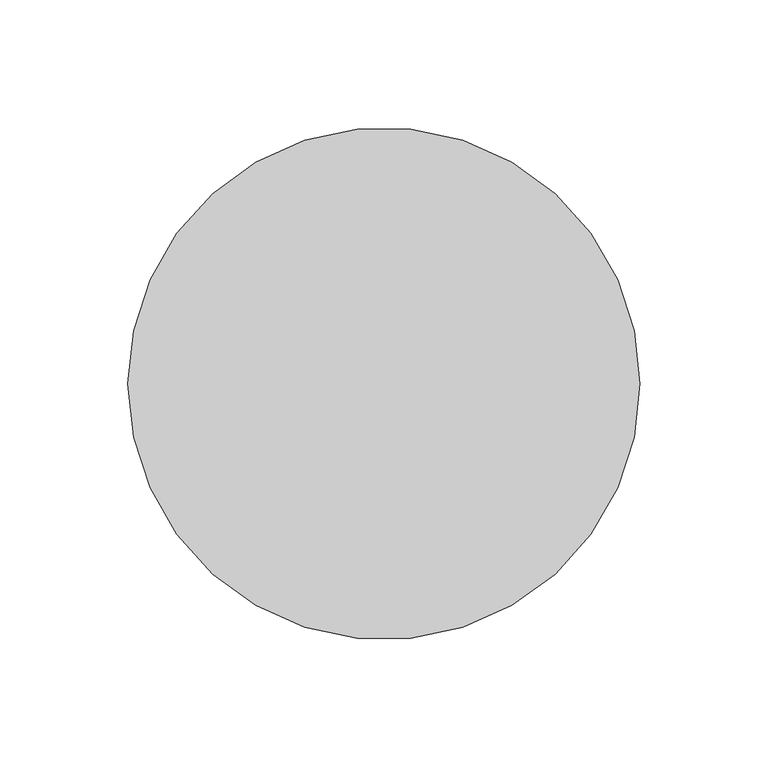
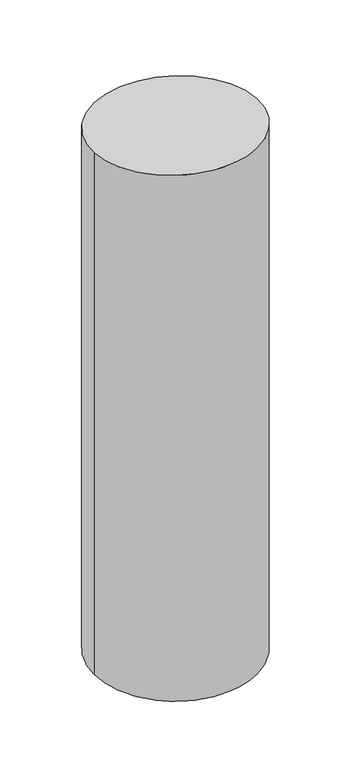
"""IFC4 building model written with IfcOpenShell, lengths in millimetres: member geometry, 矩形竖梃 : 圆瓦."""

from ifc_helpers import new_model, si_unit, frame, origin, origin_with_axes, place, context, project, spatial, circle_curve, ellipse_curve, source, transform, mapped, element, save
from ifc_brep_helpers import plane_surface, cylinder_surface, advanced_brep


def member_52043cd3(model_context):
    return source(origin(), model_context, "Body", "AdvancedBrep", [
        advanced_brep(
        [(100.0, 0.0, -676.6972491), (-100.0, 0.0, -676.6972491), (-100.0, 0.0, 0.0), (100.0, 0.0, 0.0)],
        [
            (0, 1, circle_curve(frame((0.0, 0.0, -676.6972491), z_axis=(0.0, 0.0, -1.0), x_axis=(1.0, 0.0, 0.0)), 100.0)),
            (1, 0, circle_curve(frame((0.0, 0.0, -676.6972491), z_axis=(0.0, 0.0, -1.0), x_axis=(1.0, 0.0, 0.0)), 100.0)),
            (2, 3, ellipse_curve(frame((0.0, 0.0, 0.0), z_axis=(0.0, -0.06281655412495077, -0.9980250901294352), x_axis=(0.0, -0.9980250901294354, 0.06281655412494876)), 100.1978818, 100.0)),
            (3, 0),
            (1, 2),
            (3, 2, ellipse_curve(frame((0.0, 0.0, 0.0), z_axis=(0.0, -0.06281655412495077, -0.9980250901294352), x_axis=(0.0, -0.9980250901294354, 0.06281655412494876)), 100.1978818, 100.0)),
        ],
        [
            plane_surface(frame((0.0, -100.0, -676.6972491), z_axis=(0.0, 0.0, -1.0), x_axis=(-1.0, 0.0, 0.0))),
            cylinder_surface(origin_with_axes(), 100.0),
            plane_surface(frame((-304.8, 0.0, 0.0), z_axis=(0.0, 0.06281655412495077, 0.9980250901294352), x_axis=(0.0, 0.9980250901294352, -0.06281655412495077))),
        ],
        [
            (0, [[1, 2]]),
            (1, [[3, 4, -2, 5]]),
            (1, [[6, -5, -1, -4]]),
            (2, [[-3, -6]]),
        ],
    ),
    ])


if __name__ == "__main__":
    model = new_model("IFC4")
    model_context = context("Model", 3, world=origin())
    ifc_project = project(units=[si_unit("LENGTHUNIT", "METRE", prefix="MILLI")], contexts=[model_context])
    site = spatial("IfcSite", under=ifc_project)
    building = spatial("IfcBuilding", under=site)
    placement = place(None, origin())
    member_shape = member_52043cd3(model_context)
    element("IfcMember", 1, ObjectType="矩形竖梃 : 圆瓦", at=placement, inside=building, context=model_context, shape_type="MappedRepresentation", body=[
        mapped(member_shape, transform((0.0, 0.0, 0.0), x_axis=(1.0, 0.0, 0.0), y_axis=(0.0, 1.0, 0.0), z_axis=(0.0, 0.0, 1.0))),
    ])
    save(model, "model.ifc")
